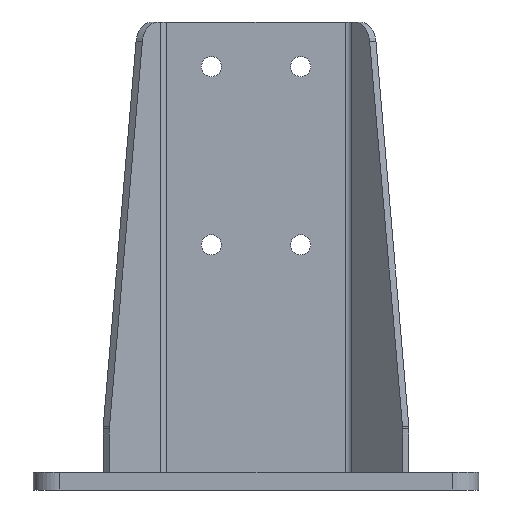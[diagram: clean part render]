
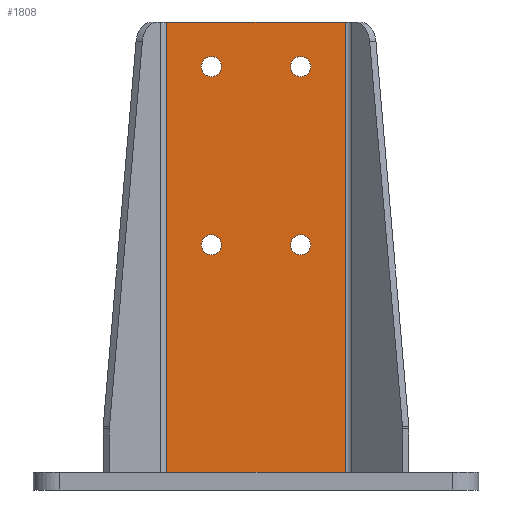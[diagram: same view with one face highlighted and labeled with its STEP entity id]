
A CAD part, front view. The second image highlights one B-rep face of the part: STEP entity #1808.
In plain terms, the highlighted planar face has unit normal (0, -1, 0) as drawn and (0, 0, 1) by its records, which use the part's own axes.
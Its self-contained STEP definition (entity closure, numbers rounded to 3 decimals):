
#55=FACE_BOUND('',#325,.T.);
#56=FACE_BOUND('',#326,.T.);
#57=FACE_BOUND('',#327,.T.);
#58=FACE_BOUND('',#328,.T.);
#120=PLANE('',#1999);
#210=FACE_OUTER_BOUND('',#324,.T.);
#324=EDGE_LOOP('',(#1626,#1627,#1628,#1629,#1630,#1631,#1632,#1633,#1634,
#1635,#1636,#1637));
#325=EDGE_LOOP('',(#1638,#1639));
#326=EDGE_LOOP('',(#1640,#1641));
#327=EDGE_LOOP('',(#1642,#1643));
#328=EDGE_LOOP('',(#1644,#1645));
#481=LINE('',#2851,#683);
#482=LINE('',#2854,#684);
#485=LINE('',#2861,#687);
#489=LINE('',#2869,#691);
#492=LINE('',#2874,#694);
#521=LINE('',#2961,#723);
#525=LINE('',#2968,#727);
#526=LINE('',#2971,#728);
#527=LINE('',#2973,#729);
#528=LINE('',#2975,#730);
#529=LINE('',#2976,#731);
#530=LINE('',#2977,#732);
#683=VECTOR('',#2337,10.);
#684=VECTOR('',#2340,10.);
#687=VECTOR('',#2345,10.);
#691=VECTOR('',#2351,10.);
#694=VECTOR('',#2356,10.);
#723=VECTOR('',#2445,10.);
#727=VECTOR('',#2451,10.);
#728=VECTOR('',#2454,10.);
#729=VECTOR('',#2455,10.);
#730=VECTOR('',#2456,10.);
#731=VECTOR('',#2457,10.);
#732=VECTOR('',#2458,10.);
#773=CIRCLE('',#1949,4.5);
#775=CIRCLE('',#1951,4.5);
#776=CIRCLE('',#1953,4.5);
#778=CIRCLE('',#1955,4.5);
#787=CIRCLE('',#1983,4.5);
#788=CIRCLE('',#1984,4.5);
#790=CIRCLE('',#1987,4.5);
#791=CIRCLE('',#1988,4.5);
#902=VERTEX_POINT('',#2816);
#903=VERTEX_POINT('',#2817);
#905=VERTEX_POINT('',#2824);
#906=VERTEX_POINT('',#2825);
#909=VERTEX_POINT('',#2834);
#913=VERTEX_POINT('',#2844);
#914=VERTEX_POINT('',#2853);
#916=VERTEX_POINT('',#2859);
#917=VERTEX_POINT('',#2860);
#920=VERTEX_POINT('',#2868);
#938=VERTEX_POINT('',#2927);
#939=VERTEX_POINT('',#2928);
#941=VERTEX_POINT('',#2935);
#942=VERTEX_POINT('',#2936);
#946=VERTEX_POINT('',#2947);
#948=VERTEX_POINT('',#2953);
#951=VERTEX_POINT('',#2966);
#952=VERTEX_POINT('',#2970);
#953=VERTEX_POINT('',#2972);
#954=VERTEX_POINT('',#2974);
#1113=EDGE_CURVE('',#902,#903,#773,.T.);
#1116=EDGE_CURVE('',#903,#902,#775,.T.);
#1117=EDGE_CURVE('',#905,#906,#776,.T.);
#1120=EDGE_CURVE('',#906,#905,#778,.T.);
#1131=EDGE_CURVE('',#909,#913,#481,.T.);
#1132=EDGE_CURVE('',#914,#913,#482,.T.);
#1135=EDGE_CURVE('',#916,#917,#485,.T.);
#1139=EDGE_CURVE('',#917,#920,#489,.T.);
#1142=EDGE_CURVE('',#920,#914,#492,.T.);
#1168=EDGE_CURVE('',#938,#939,#787,.T.);
#1169=EDGE_CURVE('',#939,#938,#788,.T.);
#1172=EDGE_CURVE('',#941,#942,#790,.T.);
#1173=EDGE_CURVE('',#942,#941,#791,.T.);
#1185=EDGE_CURVE('',#946,#948,#521,.T.);
#1189=EDGE_CURVE('',#951,#948,#525,.T.);
#1190=EDGE_CURVE('',#952,#951,#526,.T.);
#1191=EDGE_CURVE('',#953,#952,#527,.T.);
#1192=EDGE_CURVE('',#954,#953,#528,.T.);
#1193=EDGE_CURVE('',#916,#954,#529,.T.);
#1194=EDGE_CURVE('',#909,#946,#530,.T.);
#1626=ORIENTED_EDGE('',*,*,#1185,.T.);
#1627=ORIENTED_EDGE('',*,*,#1189,.F.);
#1628=ORIENTED_EDGE('',*,*,#1190,.F.);
#1629=ORIENTED_EDGE('',*,*,#1191,.F.);
#1630=ORIENTED_EDGE('',*,*,#1192,.F.);
#1631=ORIENTED_EDGE('',*,*,#1193,.F.);
#1632=ORIENTED_EDGE('',*,*,#1135,.T.);
#1633=ORIENTED_EDGE('',*,*,#1139,.T.);
#1634=ORIENTED_EDGE('',*,*,#1142,.T.);
#1635=ORIENTED_EDGE('',*,*,#1132,.T.);
#1636=ORIENTED_EDGE('',*,*,#1131,.F.);
#1637=ORIENTED_EDGE('',*,*,#1194,.T.);
#1638=ORIENTED_EDGE('',*,*,#1117,.F.);
#1639=ORIENTED_EDGE('',*,*,#1120,.F.);
#1640=ORIENTED_EDGE('',*,*,#1113,.F.);
#1641=ORIENTED_EDGE('',*,*,#1116,.F.);
#1642=ORIENTED_EDGE('',*,*,#1168,.T.);
#1643=ORIENTED_EDGE('',*,*,#1169,.T.);
#1644=ORIENTED_EDGE('',*,*,#1172,.T.);
#1645=ORIENTED_EDGE('',*,*,#1173,.T.);
#1808=ADVANCED_FACE('',(#210,#55,#56,#57,#58),#120,.T.);
#1949=AXIS2_PLACEMENT_3D('',#2818,#2299,#2300);
#1951=AXIS2_PLACEMENT_3D('',#2822,#2304,#2305);
#1953=AXIS2_PLACEMENT_3D('',#2826,#2308,#2309);
#1955=AXIS2_PLACEMENT_3D('',#2830,#2313,#2314);
#1983=AXIS2_PLACEMENT_3D('',#2929,#2408,#2409);
#1984=AXIS2_PLACEMENT_3D('',#2930,#2410,#2411);
#1987=AXIS2_PLACEMENT_3D('',#2937,#2417,#2418);
#1988=AXIS2_PLACEMENT_3D('',#2938,#2419,#2420);
#1999=AXIS2_PLACEMENT_3D('',#2969,#2452,#2453);
#2299=DIRECTION('center_axis',(0.,0.,1.));
#2300=DIRECTION('ref_axis',(-1.,0.,0.));
#2304=DIRECTION('center_axis',(0.,0.,1.));
#2305=DIRECTION('ref_axis',(-1.,0.,0.));
#2308=DIRECTION('center_axis',(0.,0.,1.));
#2309=DIRECTION('ref_axis',(-1.,0.,0.));
#2313=DIRECTION('center_axis',(0.,0.,1.));
#2314=DIRECTION('ref_axis',(-1.,0.,0.));
#2337=DIRECTION('',(0.,-1.,0.));
#2340=DIRECTION('',(1.,0.,0.));
#2345=DIRECTION('',(0.,-1.,0.));
#2351=DIRECTION('',(1.,0.,0.));
#2356=DIRECTION('',(0.,1.,0.));
#2408=DIRECTION('center_axis',(0.,0.,-1.));
#2409=DIRECTION('ref_axis',(1.,0.,0.));
#2410=DIRECTION('center_axis',(0.,0.,-1.));
#2411=DIRECTION('ref_axis',(1.,0.,0.));
#2417=DIRECTION('center_axis',(0.,0.,-1.));
#2418=DIRECTION('ref_axis',(1.,0.,0.));
#2419=DIRECTION('center_axis',(0.,0.,-1.));
#2420=DIRECTION('ref_axis',(1.,0.,0.));
#2445=DIRECTION('',(0.,-1.,0.));
#2451=DIRECTION('',(-1.,0.,0.));
#2452=DIRECTION('center_axis',(0.,0.,1.));
#2453=DIRECTION('ref_axis',(1.,0.,0.));
#2454=DIRECTION('',(0.,1.,0.));
#2455=DIRECTION('',(-1.,0.,0.));
#2456=DIRECTION('',(0.,-1.,0.));
#2457=DIRECTION('',(-1.,0.,0.));
#2458=DIRECTION('',(-1.,0.,0.));
#2816=CARTESIAN_POINT('',(60.5,102.,4.));
#2817=CARTESIAN_POINT('',(69.5,102.,4.));
#2818=CARTESIAN_POINT('Origin',(65.,102.,4.));
#2822=CARTESIAN_POINT('Origin',(65.,102.,4.));
#2824=CARTESIAN_POINT('',(60.5,182.,4.));
#2825=CARTESIAN_POINT('',(69.5,182.,4.));
#2826=CARTESIAN_POINT('Origin',(65.,182.,4.));
#2830=CARTESIAN_POINT('Origin',(65.,182.,4.));
#2834=CARTESIAN_POINT('',(85.,202.,4.));
#2844=CARTESIAN_POINT('',(85.,0.,4.));
#2851=CARTESIAN_POINT('',(85.,-1.75,4.));
#2853=CARTESIAN_POINT('',(77.5,0.,4.));
#2854=CARTESIAN_POINT('',(122.,0.,4.));
#2859=CARTESIAN_POINT('',(62.5,0.,4.));
#2860=CARTESIAN_POINT('',(62.5,-7.,4.));
#2861=CARTESIAN_POINT('',(62.5,-7.,4.));
#2868=CARTESIAN_POINT('',(77.5,-7.,4.));
#2869=CARTESIAN_POINT('',(77.5,-7.,4.));
#2874=CARTESIAN_POINT('',(77.5,0.,4.));
#2927=CARTESIAN_POINT('',(29.5,102.,4.));
#2928=CARTESIAN_POINT('',(20.5,102.,4.));
#2929=CARTESIAN_POINT('Origin',(25.,102.,4.));
#2930=CARTESIAN_POINT('Origin',(25.,102.,4.));
#2935=CARTESIAN_POINT('',(29.5,182.,4.));
#2936=CARTESIAN_POINT('',(20.5,182.,4.));
#2937=CARTESIAN_POINT('Origin',(25.,182.,4.));
#2938=CARTESIAN_POINT('Origin',(25.,182.,4.));
#2947=CARTESIAN_POINT('',(5.,202.,4.));
#2953=CARTESIAN_POINT('',(5.,0.,4.));
#2961=CARTESIAN_POINT('',(5.,-1.75,4.));
#2966=CARTESIAN_POINT('',(12.5,0.,4.));
#2968=CARTESIAN_POINT('',(-32.,0.,4.));
#2969=CARTESIAN_POINT('Origin',(20.,-3.5,4.));
#2970=CARTESIAN_POINT('',(12.5,-7.,4.));
#2971=CARTESIAN_POINT('',(12.5,0.,4.));
#2972=CARTESIAN_POINT('',(27.5,-7.,4.));
#2973=CARTESIAN_POINT('',(12.5,-7.,4.));
#2974=CARTESIAN_POINT('',(27.5,0.,4.));
#2975=CARTESIAN_POINT('',(27.5,-7.,4.));
#2976=CARTESIAN_POINT('',(0.,0.,4.));
#2977=CARTESIAN_POINT('',(45.,202.,4.));
